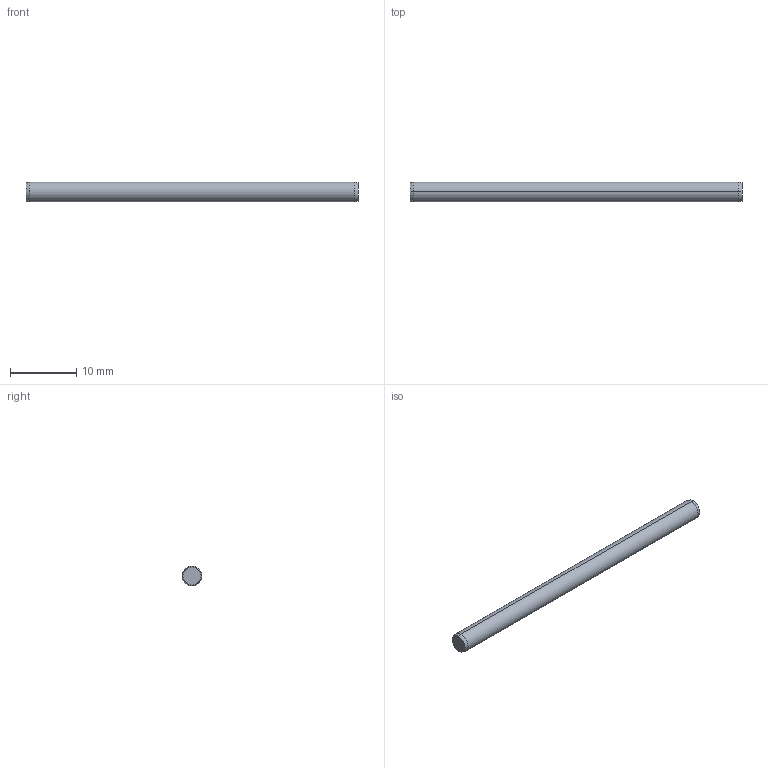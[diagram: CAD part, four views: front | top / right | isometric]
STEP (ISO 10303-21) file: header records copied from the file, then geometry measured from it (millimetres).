
FILE_DESCRIPTION (( 'STEP AP203' ), '1' );
FILE_NAME ('P1206.030-050.step', '2017-06-14T08:07:48', ( 'User' ), ( '' ), 'SwSTEP 2.0', 'SolidWorks 2009', '' );
FILE_SCHEMA (( 'CONFIG_CONTROL_DESIGN' ));
Length unit declared in the file: millimetre
Products named in the file (1): P1206.030-050
Bounding box: 50 x 3 x 3 mm (x, y, z)
Volume: 352.8 mm3; surface area: 482.9 mm2
Topology: 1 solids, 1 shells, 8 faces, 14 edges, 8 vertices
Faces by surface type: cone 4, cylinder 2, plane 2
Entity records: 271 total; most frequent: DIRECTION 40, CARTESIAN_POINT 31, ORIENTED_EDGE 28, AXIS2_PLACEMENT_3D 17, EDGE_CURVE 14, ADVANCED_FACE 8, EDGE_LOOP 8, CIRCLE 8
